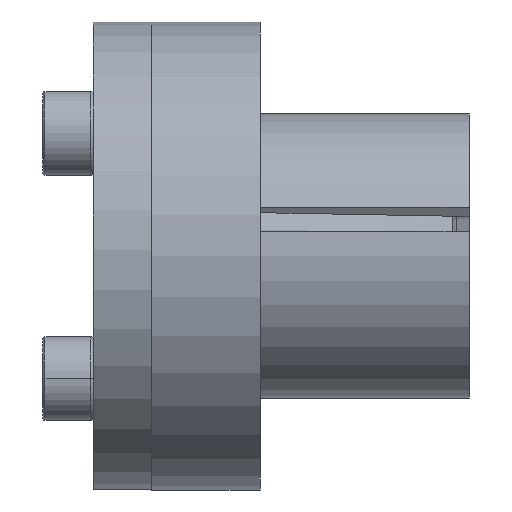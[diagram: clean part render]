
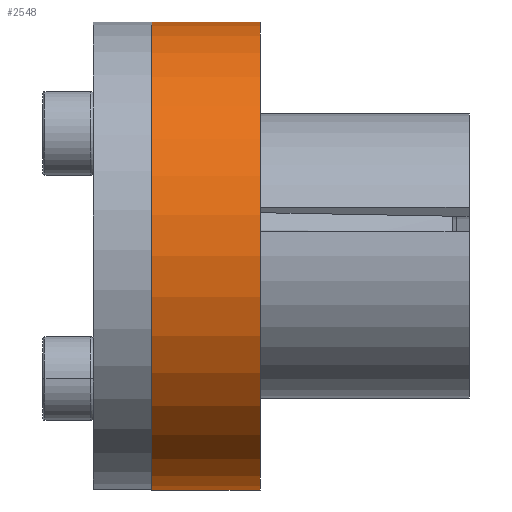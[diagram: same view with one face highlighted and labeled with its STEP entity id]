
A CAD part, front view. The second image highlights one B-rep face of the part: STEP entity #2548.
In plain terms, the highlighted cylindrical face has radius 28 mm (diameter 56 mm), a partial arc.
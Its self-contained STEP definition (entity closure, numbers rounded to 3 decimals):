
#174 = CARTESIAN_POINT ( 'NONE',  ( -15.5, 0., 28. ) ) ;
#206 = EDGE_CURVE ( 'NONE', #2561, #842, #754, .T. ) ;
#274 = CARTESIAN_POINT ( 'NONE',  ( -22.5, 0., 28. ) ) ;
#477 = ORIENTED_EDGE ( 'NONE', *, *, #206, .T. ) ;
#666 = AXIS2_PLACEMENT_3D ( 'NONE', #2584, #2576, #2560 ) ;
#754 = LINE ( 'NONE', #274, #3934 ) ;
#842 = VERTEX_POINT ( 'NONE', #174 ) ;
#867 = DIRECTION ( 'NONE',  ( 0., 0., 1. ) ) ;
#881 = DIRECTION ( 'NONE',  ( -1., 0., 0. ) ) ;
#902 = CARTESIAN_POINT ( 'NONE',  ( -2.5, 0., 0. ) ) ;
#1203 = EDGE_CURVE ( 'NONE', #1896, #2179, #3751, .T. ) ;
#1372 = AXIS2_PLACEMENT_3D ( 'NONE', #3252, #3727, #4016 ) ;
#1878 = CARTESIAN_POINT ( 'NONE',  ( -15.5, 0., -28. ) ) ;
#1896 = VERTEX_POINT ( 'NONE', #2435 ) ;
#2008 = EDGE_LOOP ( 'NONE', ( #3077, #2017, #477, #2935 ) ) ;
#2017 = ORIENTED_EDGE ( 'NONE', *, *, #2860, .T. ) ;
#2146 = AXIS2_PLACEMENT_3D ( 'NONE', #902, #881, #867 ) ;
#2179 = VERTEX_POINT ( 'NONE', #1878 ) ;
#2202 = CARTESIAN_POINT ( 'NONE',  ( -22.5, 0., -28. ) ) ;
#2219 = VECTOR ( 'NONE', #2485, 1000. ) ;
#2435 = CARTESIAN_POINT ( 'NONE',  ( -2.5, 0., -28. ) ) ;
#2485 = DIRECTION ( 'NONE',  ( -1., 0., 0. ) ) ;
#2548 = ADVANCED_FACE ( 'NONE', ( #4033 ), #3139, .T. ) ;
#2560 = DIRECTION ( 'NONE',  ( 0., 0., 1. ) ) ;
#2561 = VERTEX_POINT ( 'NONE', #2832 ) ;
#2576 = DIRECTION ( 'NONE',  ( -1., 0., 0. ) ) ;
#2584 = CARTESIAN_POINT ( 'NONE',  ( -15.5, 0., 0. ) ) ;
#2767 = EDGE_CURVE ( 'NONE', #2179, #842, #3325, .T. ) ;
#2832 = CARTESIAN_POINT ( 'NONE',  ( -2.5, 0., 28. ) ) ;
#2860 = EDGE_CURVE ( 'NONE', #1896, #2561, #3769, .T. ) ;
#2935 = ORIENTED_EDGE ( 'NONE', *, *, #2767, .F. ) ;
#3077 = ORIENTED_EDGE ( 'NONE', *, *, #1203, .F. ) ;
#3139 = CYLINDRICAL_SURFACE ( 'NONE', #1372, 28. ) ;
#3252 = CARTESIAN_POINT ( 'NONE',  ( -22.5, 0., 0. ) ) ;
#3325 = CIRCLE ( 'NONE', #666, 28. ) ;
#3727 = DIRECTION ( 'NONE',  ( -1., 0., 0. ) ) ;
#3751 = LINE ( 'NONE', #2202, #2219 ) ;
#3769 = CIRCLE ( 'NONE', #2146, 28. ) ;
#3928 = DIRECTION ( 'NONE',  ( -1., 0., 0. ) ) ;
#3934 = VECTOR ( 'NONE', #3928, 1000. ) ;
#4016 = DIRECTION ( 'NONE',  ( 0., 0., 1. ) ) ;
#4033 = FACE_OUTER_BOUND ( 'NONE', #2008, .T. ) ;
